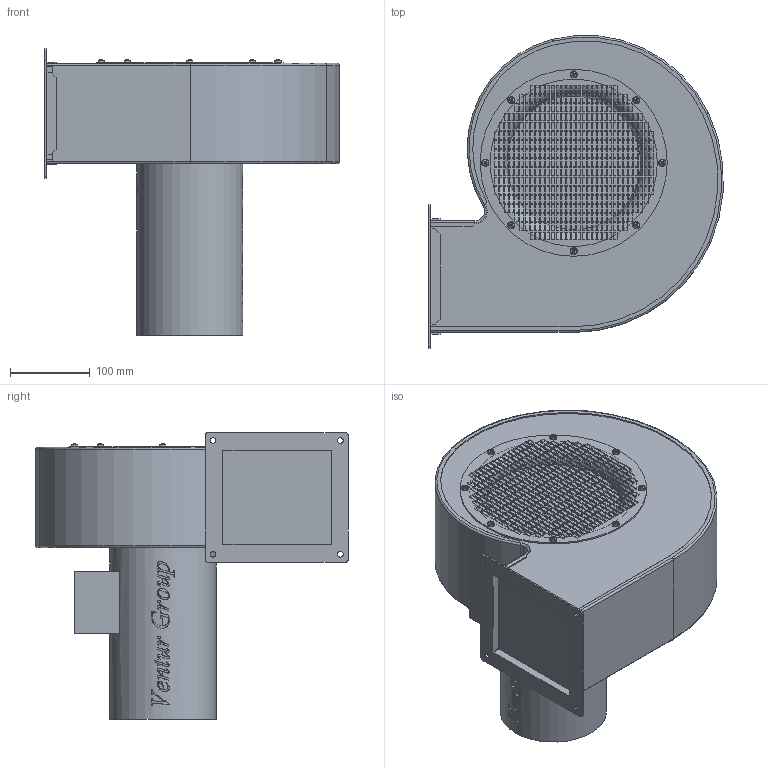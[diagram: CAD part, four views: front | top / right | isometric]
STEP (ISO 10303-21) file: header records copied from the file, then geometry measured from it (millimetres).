
FILE_DESCRIPTION(/* description */ (''),/* implementation_level */ '2;1');
FILE_NAME(/* name */ 'E:\Mariusz\Modele uproszczone\GFB\GFB_X_200_74 LG270 435030160\GFB_X_200_74 LG270 435030160\GFB_X_200_74 LG270 435030160.stp',/* time_stamp */ '2019-01-14T14:47:49+01:00',/* author */ ('M.Janczarek'),/* organization */ (''),/* preprocessor_version */ 'ST-DEVELOPER v16.13',/* originating_system */ 'Autodesk Inventor 2018',/* authorisation */ '');
FILE_SCHEMA (('AUTOMOTIVE_DESIGN { 1 0 10303 214 3 1 1 }'));
Products named in the file (1): GFB_X_200_74 LG270 435030160
Bounding box: 369.79 x 392.78 x 360.5 mm (x, y, z)
Volume: 16048538.8 mm3; surface area: 575572 mm2
Topology: 1 solids, 1 shells, 2745 faces, 8050 edges, 5331 vertices
Faces by surface type: plane 2097, bspline 388, cone 112, cylinder 97, torus 43, sphere 8
Full cylindrical faces by diameter (mm): 7.1 x4, 9 x8, 133.6 x1, 235 x2
Entity records: 101846 total; most frequent: CARTESIAN_POINT 27916, ORIENTED_EDGE 15934, DIRECTION 12356, EDGE_CURVE 7967, LINE 6326, VECTOR 6326, VERTEX_POINT 5291, EDGE_LOOP 3704
